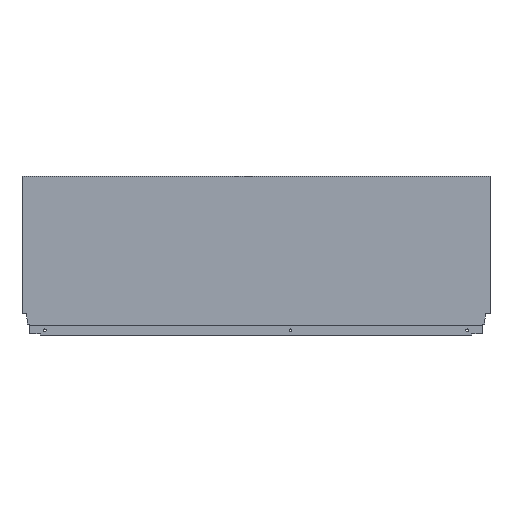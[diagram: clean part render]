
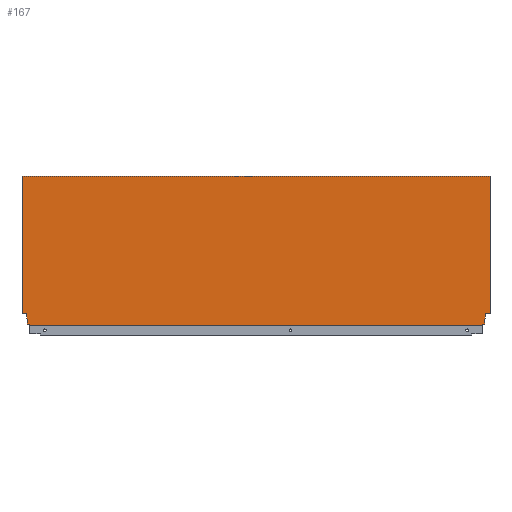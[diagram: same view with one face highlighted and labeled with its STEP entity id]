
A CAD part, top view. The second image highlights one B-rep face of the part: STEP entity #167.
In plain terms, the highlighted planar face has unit normal (0, 0, 1).
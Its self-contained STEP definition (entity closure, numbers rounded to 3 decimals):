
#90 = FACE_OUTER_BOUND ( 'NONE', #191, .T. ) ;
#167 = ADVANCED_FACE ( 'NONE', ( #90 ), #1046, .T. ) ;
#176 = LINE ( 'NONE', #787, #1427 ) ;
#191 = EDGE_LOOP ( 'NONE', ( #352, #351, #350, #349, #348, #347, #346, #345, #344, #343, #342, #341, #340, #339 ) ) ;
#277 = LINE ( 'NONE', #802, #1420 ) ;
#339 = ORIENTED_EDGE ( 'NONE', *, *, #1239, .F. ) ;
#340 = ORIENTED_EDGE ( 'NONE', *, *, #1237, .F. ) ;
#341 = ORIENTED_EDGE ( 'NONE', *, *, #1241, .F. ) ;
#342 = ORIENTED_EDGE ( 'NONE', *, *, #1243, .F. ) ;
#343 = ORIENTED_EDGE ( 'NONE', *, *, #1245, .F. ) ;
#344 = ORIENTED_EDGE ( 'NONE', *, *, #1238, .F. ) ;
#345 = ORIENTED_EDGE ( 'NONE', *, *, #1240, .F. ) ;
#346 = ORIENTED_EDGE ( 'NONE', *, *, #1275, .T. ) ;
#347 = ORIENTED_EDGE ( 'NONE', *, *, #1248, .F. ) ;
#348 = ORIENTED_EDGE ( 'NONE', *, *, #1249, .F. ) ;
#349 = ORIENTED_EDGE ( 'NONE', *, *, #1242, .F. ) ;
#350 = ORIENTED_EDGE ( 'NONE', *, *, #1253, .F. ) ;
#351 = ORIENTED_EDGE ( 'NONE', *, *, #1244, .F. ) ;
#352 = ORIENTED_EDGE ( 'NONE', *, *, #1247, .T. ) ;
#473 = LINE ( 'NONE', #702, #480 ) ;
#480 = VECTOR ( 'NONE', #700, 1000. ) ;
#700 = DIRECTION ( 'NONE',  ( 1., 0., 0. ) ) ;
#702 = CARTESIAN_POINT ( 'NONE',  ( -817., 0., 8. ) ) ;
#758 = DIRECTION ( 'NONE',  ( -0.174, 0.985, 0. ) ) ;
#759 = CARTESIAN_POINT ( 'NONE',  ( -809.94, 21.2, 8. ) ) ;
#769 = DIRECTION ( 'NONE',  ( -0.94, 0.342, 0. ) ) ;
#770 = CARTESIAN_POINT ( 'NONE',  ( -808.1, 2.64, 8. ) ) ;
#771 = DIRECTION ( 'NONE',  ( 0., 1., 0. ) ) ;
#774 = DIRECTION ( 'NONE',  ( 0., -1., 0. ) ) ;
#775 = CARTESIAN_POINT ( 'NONE',  ( -817., 0., 8. ) ) ;
#780 = DIRECTION ( 'NONE',  ( 0., -1., 0. ) ) ;
#781 = CARTESIAN_POINT ( 'NONE',  ( -8.9, 10.765, 8. ) ) ;
#782 = DIRECTION ( 'NONE',  ( -1., 0., 0. ) ) ;
#784 = CARTESIAN_POINT ( 'NONE',  ( -822., 21.2, 8. ) ) ;
#786 = DIRECTION ( 'NONE',  ( -0.174, -0.985, 0. ) ) ;
#787 = CARTESIAN_POINT ( 'NONE',  ( -803.996, 1.146, 8. ) ) ;
#789 = DIRECTION ( 'NONE',  ( 0., 1., 0. ) ) ;
#790 = CARTESIAN_POINT ( 'NONE',  ( -808.1, 10.765, 8. ) ) ;
#791 = DIRECTION ( 'NONE',  ( -1., 0., 0. ) ) ;
#792 = CARTESIAN_POINT ( 'NONE',  ( 0., 21.2, 8. ) ) ;
#795 = DIRECTION ( 'NONE',  ( 0., -1., 0. ) ) ;
#797 = CARTESIAN_POINT ( 'NONE',  ( -13.004, 1.146, 8. ) ) ;
#798 = DIRECTION ( 'NONE',  ( 1., 0., 0. ) ) ;
#799 = CARTESIAN_POINT ( 'NONE',  ( -817., 260.7, 8. ) ) ;
#801 = DIRECTION ( 'NONE',  ( -0.94, -0.342, 0. ) ) ;
#802 = CARTESIAN_POINT ( 'NONE',  ( -8.9, 2.64, 8. ) ) ;
#804 = DIRECTION ( 'NONE',  ( 0., -1., 0. ) ) ;
#806 = CARTESIAN_POINT ( 'NONE',  ( -7.06, 21.2, 8. ) ) ;
#808 = CARTESIAN_POINT ( 'NONE',  ( 0., 0., 8. ) ) ;
#834 = VERTEX_POINT ( 'NONE', #1008 ) ;
#850 = VERTEX_POINT ( 'NONE', #1001 ) ;
#859 = VERTEX_POINT ( 'NONE', #1000 ) ;
#905 = VERTEX_POINT ( 'NONE', #991 ) ;
#906 = CARTESIAN_POINT ( 'NONE',  ( -13.004, 1.146, 8. ) ) ;
#911 = CARTESIAN_POINT ( 'NONE',  ( -817., 260.7, 8. ) ) ;
#913 = CARTESIAN_POINT ( 'NONE',  ( -809.94, 21.2, 8. ) ) ;
#933 = CARTESIAN_POINT ( 'NONE',  ( -803.996, 0., 8. ) ) ;
#938 = CARTESIAN_POINT ( 'NONE',  ( -808.1, 10.765, 8. ) ) ;
#939 = CARTESIAN_POINT ( 'NONE',  ( -13.004, 0., 8. ) ) ;
#958 = CARTESIAN_POINT ( 'NONE',  ( -7.06, 21.2, 8. ) ) ;
#959 = CARTESIAN_POINT ( 'NONE',  ( -817., 21.2, 8. ) ) ;
#960 = CARTESIAN_POINT ( 'NONE',  ( -808.1, 2.64, 8. ) ) ;
#974 = CARTESIAN_POINT ( 'NONE',  ( -8.9, 2.64, 8. ) ) ;
#991 = CARTESIAN_POINT ( 'NONE',  ( -803.996, 1.146, 8. ) ) ;
#996 = VERTEX_POINT ( 'NONE', #974 ) ;
#1000 = CARTESIAN_POINT ( 'NONE',  ( -8.9, 10.765, 8. ) ) ;
#1001 = CARTESIAN_POINT ( 'NONE',  ( 0., 260.7, 8. ) ) ;
#1008 = CARTESIAN_POINT ( 'NONE',  ( 0., 21.2, 8. ) ) ;
#1032 = DIRECTION ( 'NONE',  ( 1., 0., 0. ) ) ;
#1034 = DIRECTION ( 'NONE',  ( 0., 0., 1. ) ) ;
#1042 = CARTESIAN_POINT ( 'NONE',  ( -817., 0., 8. ) ) ;
#1046 = PLANE ( 'NONE',  #1367 ) ;
#1055 = VERTEX_POINT ( 'NONE', #960 ) ;
#1058 = VERTEX_POINT ( 'NONE', #959 ) ;
#1061 = VERTEX_POINT ( 'NONE', #958 ) ;
#1111 = VERTEX_POINT ( 'NONE', #939 ) ;
#1113 = VERTEX_POINT ( 'NONE', #938 ) ;
#1127 = VERTEX_POINT ( 'NONE', #933 ) ;
#1173 = VERTEX_POINT ( 'NONE', #913 ) ;
#1177 = VERTEX_POINT ( 'NONE', #911 ) ;
#1188 = VERTEX_POINT ( 'NONE', #906 ) ;
#1237 = EDGE_CURVE ( 'NONE', #850, #834, #1471, .T. ) ;
#1238 = EDGE_CURVE ( 'NONE', #996, #1188, #277, .T. ) ;
#1239 = EDGE_CURVE ( 'NONE', #1177, #850, #1417, .T. ) ;
#1240 = EDGE_CURVE ( 'NONE', #1188, #1111, #1428, .T. ) ;
#1241 = EDGE_CURVE ( 'NONE', #834, #1061, #1442, .T. ) ;
#1242 = EDGE_CURVE ( 'NONE', #1055, #1113, #1440, .T. ) ;
#1243 = EDGE_CURVE ( 'NONE', #1061, #859, #1391, .T. ) ;
#1244 = EDGE_CURVE ( 'NONE', #1173, #1058, #1436, .T. ) ;
#1245 = EDGE_CURVE ( 'NONE', #859, #996, #1434, .T. ) ;
#1247 = EDGE_CURVE ( 'NONE', #1177, #1058, #1430, .T. ) ;
#1248 = EDGE_CURVE ( 'NONE', #1127, #905, #176, .T. ) ;
#1249 = EDGE_CURVE ( 'NONE', #905, #1055, #1425, .T. ) ;
#1253 = EDGE_CURVE ( 'NONE', #1113, #1173, #1415, .T. ) ;
#1275 = EDGE_CURVE ( 'NONE', #1127, #1111, #473, .T. ) ;
#1367 = AXIS2_PLACEMENT_3D ( 'NONE', #1042, #1034, #1032 ) ;
#1391 = LINE ( 'NONE', #806, #1438 ) ;
#1392 = VECTOR ( 'NONE', #804, 1000. ) ;
#1396 = VECTOR ( 'NONE', #795, 1000. ) ;
#1414 = VECTOR ( 'NONE', #758, 1000. ) ;
#1415 = LINE ( 'NONE', #759, #1414 ) ;
#1417 = LINE ( 'NONE', #799, #1424 ) ;
#1420 = VECTOR ( 'NONE', #801, 1000. ) ;
#1423 = VECTOR ( 'NONE', #769, 1000. ) ;
#1424 = VECTOR ( 'NONE', #798, 1000. ) ;
#1425 = LINE ( 'NONE', #770, #1423 ) ;
#1427 = VECTOR ( 'NONE', #771, 1000. ) ;
#1428 = LINE ( 'NONE', #797, #1396 ) ;
#1429 = VECTOR ( 'NONE', #774, 1000. ) ;
#1430 = LINE ( 'NONE', #775, #1429 ) ;
#1433 = VECTOR ( 'NONE', #780, 1000. ) ;
#1434 = LINE ( 'NONE', #781, #1433 ) ;
#1435 = VECTOR ( 'NONE', #782, 1000. ) ;
#1436 = LINE ( 'NONE', #784, #1435 ) ;
#1438 = VECTOR ( 'NONE', #786, 1000. ) ;
#1439 = VECTOR ( 'NONE', #789, 1000. ) ;
#1440 = LINE ( 'NONE', #790, #1439 ) ;
#1441 = VECTOR ( 'NONE', #791, 1000. ) ;
#1442 = LINE ( 'NONE', #792, #1441 ) ;
#1471 = LINE ( 'NONE', #808, #1392 ) ;
